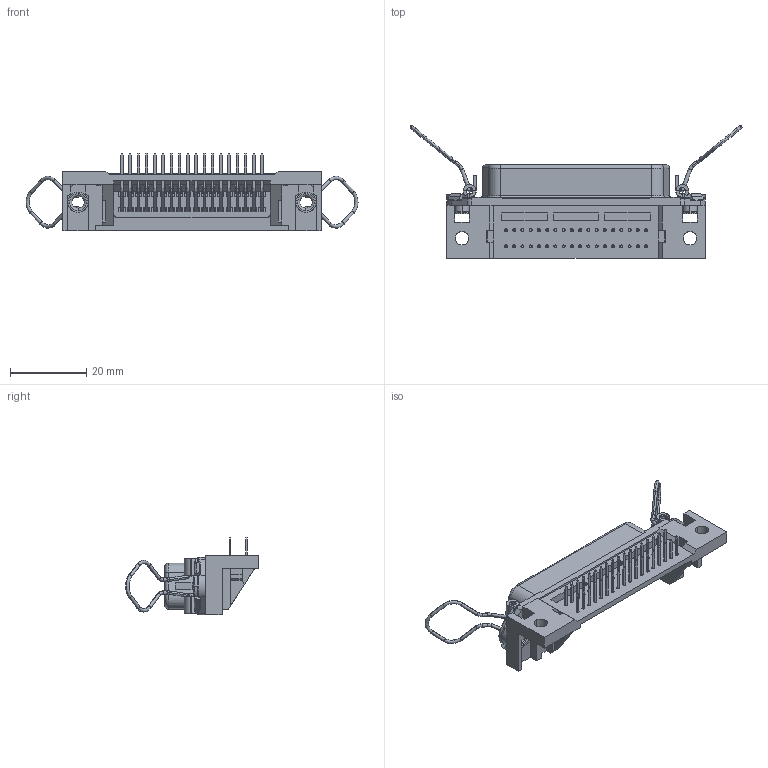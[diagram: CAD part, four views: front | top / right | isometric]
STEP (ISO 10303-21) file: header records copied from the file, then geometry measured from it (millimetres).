
FILE_DESCRIPTION (( 'STEP AP203' ), '1' );
FILE_NAME ('57LE-40360-7700-FA.STEP', '2021-05-17T02:37:46', ( '' ), ( '' ), 'SwSTEP 2.0', 'SolidWorks 2018', '' );
FILE_SCHEMA (( 'CONFIG_CONTROL_DESIGN' ));
Length unit declared in the file: millimetre
Products named in the file (1): 57LE-40360-7700-FA
Bounding box: 87.02 x 34.81 x 20.43 mm (x, y, z)
Volume: 10019.5 mm3; surface area: 12750.6 mm2
Topology: 1 solids, 5 shells, 1714 faces, 4748 edges, 3032 vertices
Faces by surface type: plane 1222, cylinder 330, cone 72, torus 62, bspline 28
Entity records: 54765 total; most frequent: CARTESIAN_POINT 10285, ORIENTED_EDGE 9496, DIRECTION 9012, EDGE_CURVE 4748, LINE 3658, VECTOR 3658, VERTEX_POINT 3032, AXIS2_PLACEMENT_3D 2677
